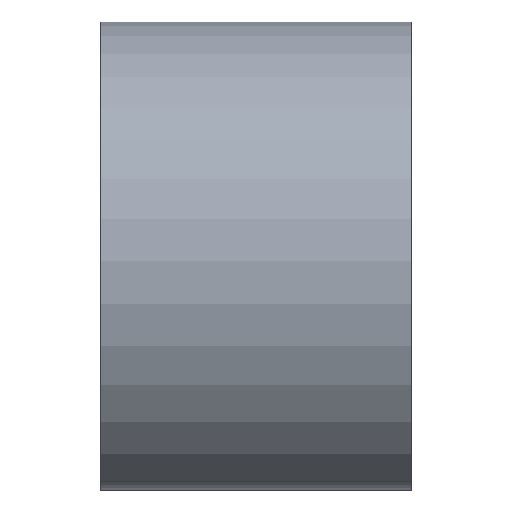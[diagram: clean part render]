
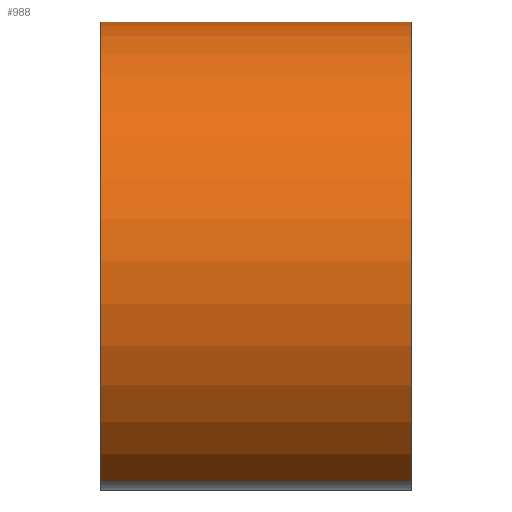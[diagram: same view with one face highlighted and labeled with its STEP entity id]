
A CAD part, front view. The second image highlights one B-rep face of the part: STEP entity #988.
In plain terms, the highlighted cylindrical face has radius 20.701 mm (diameter 41.402 mm), a partial arc.
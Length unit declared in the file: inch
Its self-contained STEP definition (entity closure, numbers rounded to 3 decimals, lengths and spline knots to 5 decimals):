
#4 = ORIENTED_EDGE ( 'NONE', *, *, #961, .F. ) ;
#71 = CARTESIAN_POINT ( 'NONE',  ( -0.5, -0.46746, -0.66761 ) ) ;
#92 = VECTOR ( 'NONE', #104, 39.37008 ) ;
#93 = CARTESIAN_POINT ( 'NONE',  ( 0.5, -0.46746, -0.66761 ) ) ;
#104 = DIRECTION ( 'NONE',  ( -1., 0., 0. ) ) ;
#114 = CARTESIAN_POINT ( 'NONE',  ( 0.5, 0., 0.815 ) ) ;
#141 = CARTESIAN_POINT ( 'NONE',  ( -0.5, 0., 0.815 ) ) ;
#185 = CARTESIAN_POINT ( 'NONE',  ( -0.5, 0., 0. ) ) ;
#204 = DIRECTION ( 'NONE',  ( -1., 0., 0. ) ) ;
#230 = LINE ( 'NONE', #114, #905 ) ;
#272 = EDGE_CURVE ( 'NONE', #307, #643, #964, .T. ) ;
#298 = CARTESIAN_POINT ( 'NONE',  ( 0.5, 0., 0. ) ) ;
#307 = VERTEX_POINT ( 'NONE', #513 ) ;
#379 = EDGE_CURVE ( 'NONE', #722, #643, #384, .T. ) ;
#384 = CIRCLE ( 'NONE', #858, 0.815 ) ;
#393 = DIRECTION ( 'NONE',  ( -1., 0., 0. ) ) ;
#400 = CYLINDRICAL_SURFACE ( 'NONE', #951, 0.815 ) ;
#513 = CARTESIAN_POINT ( 'NONE',  ( 0.5, -0.46746, -0.66761 ) ) ;
#525 = DIRECTION ( 'NONE',  ( 0., 0., -1. ) ) ;
#528 = EDGE_CURVE ( 'NONE', #867, #722, #230, .T. ) ;
#533 = EDGE_LOOP ( 'NONE', ( #4, #1003, #962, #651 ) ) ;
#539 = DIRECTION ( 'NONE',  ( 1., 0., 0. ) ) ;
#576 = CARTESIAN_POINT ( 'NONE',  ( 0.5, 0., 0. ) ) ;
#631 = CIRCLE ( 'NONE', #903, 0.815 ) ;
#643 = VERTEX_POINT ( 'NONE', #71 ) ;
#651 = ORIENTED_EDGE ( 'NONE', *, *, #272, .F. ) ;
#705 = DIRECTION ( 'NONE',  ( 0., 0., 1. ) ) ;
#717 = CARTESIAN_POINT ( 'NONE',  ( 0.5, 0., 0.815 ) ) ;
#722 = VERTEX_POINT ( 'NONE', #141 ) ;
#832 = DIRECTION ( 'NONE',  ( 0., 0., -1. ) ) ;
#858 = AXIS2_PLACEMENT_3D ( 'NONE', #185, #539, #525 ) ;
#867 = VERTEX_POINT ( 'NONE', #717 ) ;
#903 = AXIS2_PLACEMENT_3D ( 'NONE', #576, #925, #832 ) ;
#905 = VECTOR ( 'NONE', #204, 39.37008 ) ;
#925 = DIRECTION ( 'NONE',  ( 1., 0., 0. ) ) ;
#948 = FACE_OUTER_BOUND ( 'NONE', #533, .T. ) ;
#951 = AXIS2_PLACEMENT_3D ( 'NONE', #298, #393, #705 ) ;
#961 = EDGE_CURVE ( 'NONE', #867, #307, #631, .T. ) ;
#962 = ORIENTED_EDGE ( 'NONE', *, *, #379, .T. ) ;
#964 = LINE ( 'NONE', #93, #92 ) ;
#988 = ADVANCED_FACE ( 'NONE', ( #948 ), #400, .T. ) ;
#1003 = ORIENTED_EDGE ( 'NONE', *, *, #528, .T. ) ;
